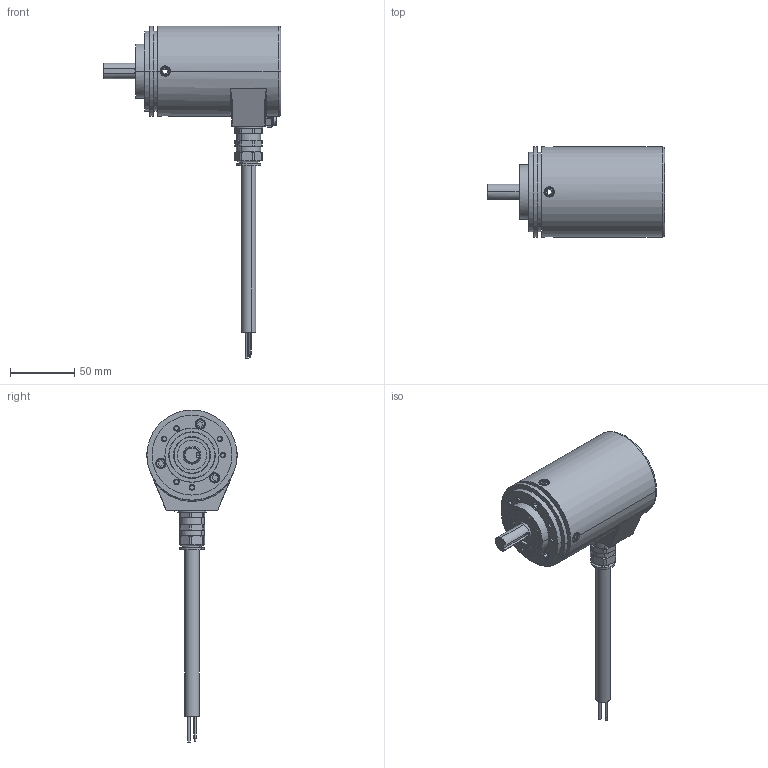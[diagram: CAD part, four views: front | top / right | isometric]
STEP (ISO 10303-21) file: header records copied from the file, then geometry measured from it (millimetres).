
FILE_DESCRIPTION (( 'STEP AP214' ), '1' );
FILE_NAME ('8.7058.1132.XXXX.STEP', '2011-01-27T08:55:23', ( 'admin' ), ( 'Fritz Kübler GmbH' ), 'SwSTEP 2.0', 'SolidWorks 2009', '' );
FILE_SCHEMA (( 'AUTOMOTIVE_DESIGN' ));
Length unit declared in the file: millimetre
Products named in the file (1): 8.7058.1132.XXXX
Bounding box: 137.7 x 70 x 257.7 mm (x, y, z)
Surface area: 48128.2 mm2 (no closed solid volume)
Topology: 0 solids, 22 shells, 308 faces, 800 edges, 512 vertices
Faces by surface type: cylinder 127, plane 125, cone 35, torus 17, bspline 4
Entity records: 13196 total; most frequent: CARTESIAN_POINT 2293, DIRECTION 1639, ORIENTED_EDGE 1415, EDGE_CURVE 796, AXIS2_PLACEMENT_3D 618, VERTEX_POINT 512, LINE 403, VECTOR 403
